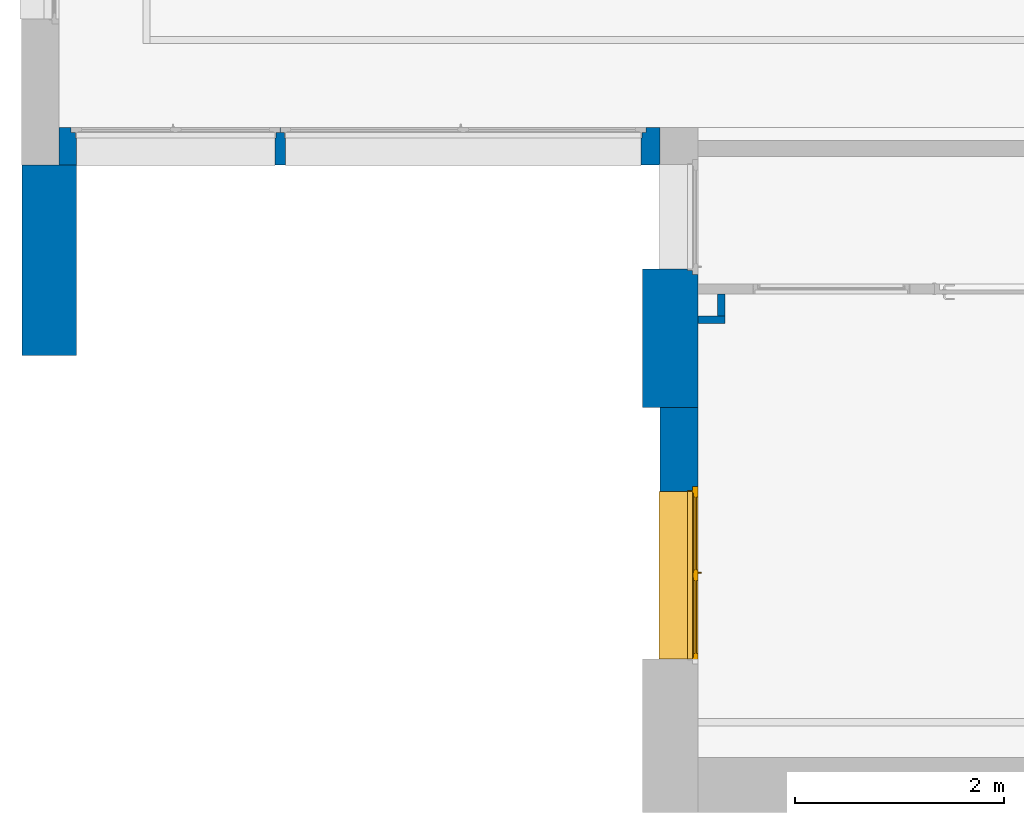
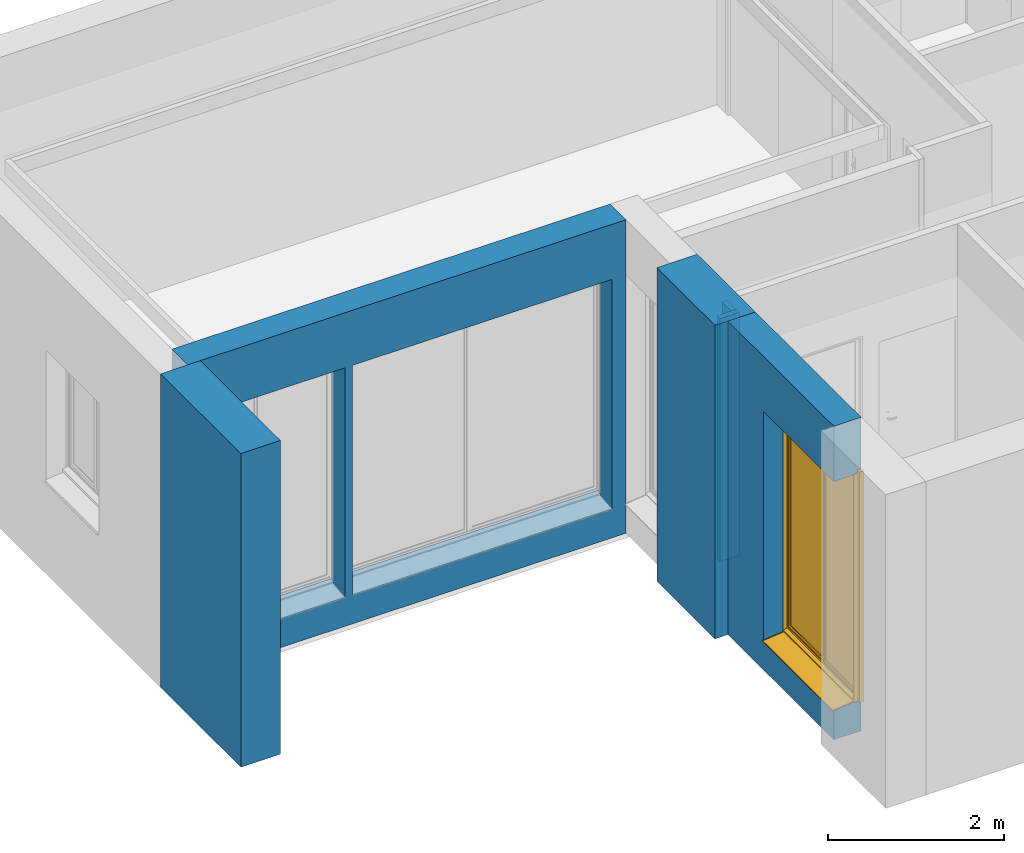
# One storey, part 3 of 32: 6 walls, 1 window, 4 openings.
"""IFC2X3 building model written with IfcOpenShell, lengths in metres."""

import ifcopenshell
import ifcopenshell.guid

model = None  # the IFC model being written
_history = None  # IfcOwnerHistory: only IFC2X3 demands one
_inside = {}  # id of a spatial element -> (the spatial element, [elements in it])
_under = {}  # id of a project, library or spatial element -> (it, [spatial elements below it])
_declared = {}  # id of a project -> (the project, [libraries it declares])
_typed = {}  # id of a type object -> (the type object, [elements of that type])
_made_of = {}  # id of a material, layer set ... -> (it, [elements and type objects made of it])


def new_model(schema):
    """Start an empty IFC model of exactly this schema.

    Asked for "IFC4X3", IfcOpenShell would pick the latest addendum, in which some entities
    have other attributes; the version numbers below select the first issue.
    IFC2X3 requires an IfcOwnerHistory on every rooted entity: one is made here for all.
    """
    global model, _history
    if schema == "IFC4X3":
        model = ifcopenshell.file(schema_version=(4, 3, 0, 0))
    else:
        model = ifcopenshell.file(schema=schema)
    _inside.clear()
    _under.clear()
    _declared.clear()
    _typed.clear()
    _made_of.clear()
    _history = None
    if model.schema == "IFC2X3":
        org = make("IfcOrganization", Name="unknown")
        user = make(
            "IfcPersonAndOrganization",
            ThePerson=make("IfcPerson", FamilyName="unknown"),
            TheOrganization=org,
        )
        app = make(
            "IfcApplication",
            ApplicationDeveloper=org,
            Version="unknown",
            ApplicationFullName="unknown",
            ApplicationIdentifier="unknown",
        )
        _history = make(
            "IfcOwnerHistory",
            OwningUser=user,
            OwningApplication=app,
            ChangeAction="ADDED",
            CreationDate=0,
        )
    return model


def make(cls, **values):
    """One entity of the class cls with the attributes given. An attribute that is None is left unset."""
    return model.create_entity(
        cls, **{name: value for name, value in values.items() if value is not None}
    )


def entity(cls, *values):
    """Any entity or typed value of the class cls, its attributes in the order of the schema. None: left unset."""
    e = model.create_entity(cls)
    for i, value in enumerate(values):
        if value is not None:
            e[i] = value
    return e


def rooted(cls, **values):
    """An entity with a GlobalId (a new one), such as an element, a storey or a relation."""
    return make(cls, GlobalId=ifcopenshell.guid.new(), OwnerHistory=_history, **values)


def si_unit(unit_type, name, prefix=None):
    """IfcSIUnit, for example si_unit("LENGTHUNIT", "METRE", prefix="MILLI")."""
    return make("IfcSIUnit", UnitType=unit_type, Prefix=prefix, Name=name)


def converted_unit(unit_type, name, factor, base, dimensions=None, offset=None):
    """IfcConversionBasedUnit, such as the inch: factor (a typed value) times the base unit."""
    return make(
        "IfcConversionBasedUnit"
        if offset is None
        else "IfcConversionBasedUnitWithOffset",
        ConversionOffset=offset,
        Dimensions=None
        if dimensions is None
        else entity("IfcDimensionalExponents", *dimensions),
        UnitType=unit_type,
        Name=name,
        ConversionFactor=make(
            "IfcMeasureWithUnit", ValueComponent=factor, UnitComponent=base
        ),
    )


def derived_unit(unit_type, elements):
    """IfcDerivedUnit: a product of units, each with its exponent."""
    return make(
        "IfcDerivedUnit",
        Elements=[
            make("IfcDerivedUnitElement", Unit=unit, Exponent=power)
            for unit, power in elements
        ],
        UnitType=unit_type,
    )


def assignment(units):
    """IfcUnitAssignment: the units of a project."""
    return None if units is None else make("IfcUnitAssignment", Units=units)


def point(xyz):
    """IfcCartesianPoint."""
    return None if xyz is None else make("IfcCartesianPoint", Coordinates=xyz)


def direction(xyz):
    """IfcDirection."""
    return None if xyz is None else make("IfcDirection", DirectionRatios=xyz)


def frame(location, z_axis=None, x_axis=None):
    """IfcAxis2Placement3D, a coordinate frame: its origin and axes. An axis left out is left unset."""
    return make(
        "IfcAxis2Placement3D",
        Location=point(location),
        Axis=direction(z_axis),
        RefDirection=direction(x_axis),
    )


def frame_2d(location, x_axis=None):
    """IfcAxis2Placement2D, a coordinate frame in the plane: its origin and x axis."""
    return make(
        "IfcAxis2Placement2D", Location=point(location), RefDirection=direction(x_axis)
    )


def origin():
    """The frame at (0, 0, 0) with its axes left unset."""
    return frame((0.0, 0.0, 0.0))


def origin_2d_with_axis():
    """The frame at (0, 0) in the plane with the x axis (1, 0) written out."""
    return frame_2d((0.0, 0.0), x_axis=(1.0, 0.0))


def place(relative_to, where):
    """IfcLocalPlacement: puts the frame where relative to a parent placement (None: the world)."""
    return make(
        "IfcLocalPlacement", PlacementRelTo=relative_to, RelativePlacement=where
    )


def context(
    kind, dimensions, precision=None, world=None, true_north=None, identifier=None
):
    """IfcGeometricRepresentationContext, for example the 3D "Model" context."""
    return make(
        "IfcGeometricRepresentationContext",
        ContextIdentifier=identifier,
        ContextType=kind,
        CoordinateSpaceDimension=dimensions,
        Precision=precision,
        WorldCoordinateSystem=world,
        TrueNorth=true_north,
    )


def subcontext(parent, identifier, kind, view, scale=None):
    """IfcGeometricRepresentationSubContext, for example "Body" below "Model"."""
    return make(
        "IfcGeometricRepresentationSubContext",
        ContextIdentifier=identifier,
        ContextType=kind,
        ParentContext=parent,
        TargetScale=scale,
        TargetView=view,
    )


def project(units=None, contexts=None):
    """IfcProject with its units and contexts."""
    return rooted(
        "IfcProject",
        Name="project",
        RepresentationContexts=contexts,
        UnitsInContext=assignment(units),
    )


def spatial(cls, under=None, at=None, **own):
    """A site, building, storey or space (cls), placed at a placement, below another one or the project."""
    s = rooted(cls, ObjectPlacement=at, **own)
    if under is not None:
        _under.setdefault(under.id(), (under, []))[1].append(s)
    return s


def polyline(points):
    """IfcPolyline through the points."""
    return make("IfcPolyline", Points=[point(p) for p in points])


def circle_curve(where, radius):
    """IfcCircle in the frame where."""
    return make("IfcCircle", Position=where, Radius=radius)


def parameter(value):
    """IfcParameterValue: where a trimmed curve begins or ends, as a parameter of its basis curve."""
    return model.create_entity("IfcParameterValue", value)


def trimmed(basis, trim1, trim2, sense, master):
    """IfcTrimmedCurve: the piece of a basis curve between two trims."""
    return make(
        "IfcTrimmedCurve",
        BasisCurve=basis,
        Trim1=trim1,
        Trim2=trim2,
        SenseAgreement=sense,
        MasterRepresentation=master,
    )


def segment(curve, same_sense, transition):
    """IfcCompositeCurveSegment."""
    return make(
        "IfcCompositeCurveSegment",
        Transition=transition,
        SameSense=same_sense,
        ParentCurve=curve,
    )


def composite_curve(segments, self_intersect=None):
    """IfcCompositeCurve: segments joined end to end."""
    return make("IfcCompositeCurve", Segments=segments, SelfIntersect=self_intersect)


def profile(cls, at=None, kind="AREA", **sizes):
    """A parametric profile (cls). Its sizes go by their IFC names, for example OverallWidth=200.0."""
    return make(cls, ProfileType=kind, Position=at, **sizes)


def rectangle(**sizes):
    """IfcRectangleProfileDef."""
    return profile("IfcRectangleProfileDef", **sizes)


def outline(outer, holes=None, kind="AREA"):
    """IfcArbitraryClosedProfileDef: a profile drawn as a closed curve; with holes, ...WithVoids."""
    if holes is None:
        return make("IfcArbitraryClosedProfileDef", ProfileType=kind, OuterCurve=outer)
    return make(
        "IfcArbitraryProfileDefWithVoids",
        ProfileType=kind,
        OuterCurve=outer,
        InnerCurves=holes,
    )


def extrude(swept, where, along, depth):
    """IfcExtrudedAreaSolid: the profile swept, set in the frame where, extruded along a direction by depth."""
    return make(
        "IfcExtrudedAreaSolid",
        SweptArea=swept,
        Position=where,
        ExtrudedDirection=direction(along),
        Depth=depth,
    )


def faces_of(points, faces, orient=None, outer=None):
    """IfcFace entities. A face is a list of loops; a loop is a list of indices into points, from 0.

    orient and outer hold one flag for each loop. By default every Orientation is true, the
    first loop of a face is its IfcFaceOuterBound and the others are IfcFaceBound.
    """
    made = []
    for i, loops in enumerate(faces):
        bounds = []
        for j, loop in enumerate(loops):
            is_outer = j == 0 if outer is None else outer[i][j]
            bounds.append(
                make(
                    "IfcFaceOuterBound" if is_outer else "IfcFaceBound",
                    Bound=make("IfcPolyLoop", Polygon=[points[k] for k in loop]),
                    Orientation=True if orient is None else orient[i][j],
                )
            )
        made.append(make("IfcFace", Bounds=bounds))
    return made


def faceted_brep(points, faces, orient=None, outer=None, voids=None):
    """IfcFacetedBrep: a solid bounded by flat faces; with voids (closed shells), ...WithVoids."""
    shared = [point(p) for p in points]
    hull = make("IfcClosedShell", CfsFaces=faces_of(shared, faces, orient, outer))
    if voids is None:
        return make("IfcFacetedBrep", Outer=hull)
    return make(
        "IfcFacetedBrepWithVoids",
        Outer=hull,
        Voids=[
            make(cls, CfsFaces=faces_of(shared, fs, o, b)) for cls, fs, o, b in voids
        ],
    )


def shape(context_of_items, identifier, shape_type, items):
    """IfcShapeRepresentation: the items that make up one representation, for example the "Body"."""
    return make(
        "IfcShapeRepresentation",
        ContextOfItems=context_of_items,
        RepresentationIdentifier=identifier,
        RepresentationType=shape_type,
        Items=items,
    )


def source(mapping_origin, context_of_items, identifier, shape_type, items):
    """IfcRepresentationMap: a shape defined once, which mapped items show again and again."""
    return make(
        "IfcRepresentationMap",
        MappingOrigin=mapping_origin,
        MappedRepresentation=shape(context_of_items, identifier, shape_type, items),
    )


def transform(
    local_origin,
    x_axis=None,
    y_axis=None,
    z_axis=None,
    scale=None,
    scale2=None,
    scale3=None,
    uniform=True,
):
    """IfcCartesianTransformationOperator3D, or its non-uniform kind. x_axis, y_axis, z_axis: its Axis1, 2, 3."""
    if uniform:
        return make(
            "IfcCartesianTransformationOperator3D",
            Axis1=direction(x_axis),
            Axis2=direction(y_axis),
            LocalOrigin=point(local_origin),
            Scale=scale,
            Axis3=direction(z_axis),
        )
    return make(
        "IfcCartesianTransformationOperator3DnonUniform",
        Axis1=direction(x_axis),
        Axis2=direction(y_axis),
        LocalOrigin=point(local_origin),
        Scale=scale,
        Axis3=direction(z_axis),
        Scale2=scale2,
        Scale3=scale3,
    )


def mapped(mapping_source, mapping_target):
    """IfcMappedItem: shows the shape of a source again, moved by a transform."""
    return make(
        "IfcMappedItem", MappingSource=mapping_source, MappingTarget=mapping_target
    )


def material(Name=None, Category=None):
    """IfcMaterial."""
    return make("IfcMaterial", Name=Name, Category=Category)


def material_list(materials):
    """IfcMaterialList."""
    return make("IfcMaterialList", Materials=materials)


def layer(
    of_material, thickness, ventilated=None, Name=None, Category=None, Priority=None
):
    """IfcMaterialLayer: one layer of a wall or slab, of a material (None: an air gap)."""
    return make(
        "IfcMaterialLayer",
        Material=of_material,
        LayerThickness=thickness,
        IsVentilated=ventilated,
        Name=Name,
        Category=Category,
        Priority=Priority,
    )


def layer_set(layers, Name=None):
    """IfcMaterialLayerSet."""
    return make("IfcMaterialLayerSet", MaterialLayers=layers, LayerSetName=Name)


def layer_usage(for_layer_set, set_direction, sense, offset, extent=None):
    """IfcMaterialLayerSetUsage: how a layer set lies in its element."""
    return make(
        "IfcMaterialLayerSetUsage",
        ForLayerSet=for_layer_set,
        LayerSetDirection=set_direction,
        DirectionSense=sense,
        OffsetFromReferenceLine=offset,
        ReferenceExtent=extent,
    )


def made_of(thing, what):
    """Note that an element or type object is made of a material, layer set ...; save() writes the relation."""
    if what is not None:
        _made_of.setdefault(what.id(), (what, []))[1].append(thing)
    return thing


def type_object(cls, material=None, **own):
    """A type object (cls), such as IfcWallType, which elements share."""
    return made_of(rooted(cls, **own), material)


def type_shapes(of_type, sources):
    """Give a type object the sources (RepresentationMaps) that its elements show as mapped items."""
    of_type.RepresentationMaps = sources


def element(
    cls,
    number,
    at=None,
    inside=None,
    cuts=None,
    type_object=None,
    material=None,
    context=None,
    identifier="Body",
    shape_type=None,
    held_by="IfcProductDefinitionShape",
    body=None,
    shapes=None,
    **own,
):
    """One element of the class cls, such as IfcWall. Its Tag is "e" and its number.

    at: its placement. inside: the storey or other place that contains it. cuts: it is an
    opening in that element (IfcRelVoidsElement). A single representation is given by context,
    identifier, shape_type and body (its items); several are given by shapes. held_by: the class
    of the entity that holds the representations. save() writes the other relations.
    """
    e = rooted(cls, Tag="e%d" % number, ObjectPlacement=at, **own)
    if body is not None:
        shapes = [shape(context, identifier, shape_type, body)]
    if shapes is not None:
        e.Representation = make(held_by, Representations=shapes)
    if inside is not None:
        _inside.setdefault(inside.id(), (inside, []))[1].append(e)
    if cuts is not None:
        rooted(
            "IfcRelVoidsElement", RelatingBuildingElement=cuts, RelatedOpeningElement=e
        )
    if type_object is not None:
        _typed.setdefault(type_object.id(), (type_object, []))[1].append(e)
    return made_of(e, material)


def fill(opening, filler):
    """IfcRelFillsElement: the door or window that sits in an opening."""
    return rooted(
        "IfcRelFillsElement",
        RelatingOpeningElement=opening,
        RelatedBuildingElement=filler,
    )


def aggregate(whole, parts):
    """IfcRelAggregates: a whole, such as a stair, and the parts it consists of."""
    return rooted("IfcRelAggregates", RelatingObject=whole, RelatedObjects=parts)


def save(model, path):
    """Write the relations noted so far, then the file.

    IfcRelAggregates (storeys below a building ...), IfcRelContainedInSpatialStructure (elements
    in a storey), IfcRelDefinesByType, IfcRelAssociatesMaterial and IfcRelDeclares: one each for
    every whole, place, type object, material and project.
    """
    for whole, parts in _under.values():
        aggregate(whole, parts)
    for where, things in _inside.values():
        rooted(
            "IfcRelContainedInSpatialStructure",
            RelatedElements=things,
            RelatingStructure=where,
        )
    for kind, things in _typed.values():
        rooted("IfcRelDefinesByType", RelatedObjects=things, RelatingType=kind)
    for what, things in _made_of.values():
        rooted("IfcRelAssociatesMaterial", RelatedObjects=things, RelatingMaterial=what)
    for by, libraries in _declared.values():
        rooted("IfcRelDeclares", RelatingContext=by, RelatedDefinitions=libraries)
    model.write(path)


model = new_model("IFC2X3")

# Units and contexts
model_context = context("Model", 3, precision=1e-05, world=origin(), true_north=direction((6.12303176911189e-17, 1.0)))
plan_context = context("Plan", 3, precision=1e-05, world=origin(), true_north=direction((6.12303176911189e-17, 1.0)))
body_context = subcontext(model_context, "Body", "Model", "MODEL_VIEW")
ifc_project = project(units=[si_unit("LENGTHUNIT", "METRE"), si_unit("AREAUNIT", "SQUARE_METRE"), si_unit("VOLUMEUNIT", "CUBIC_METRE"), converted_unit("PLANEANGLEUNIT", "DEGREE", entity("IfcRatioMeasure", 0.0174532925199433), si_unit("PLANEANGLEUNIT", "RADIAN"), dimensions=[0, 0, 0, 0, 0, 0, 0]), si_unit("MASSUNIT", "GRAM", prefix="KILO"), derived_unit("MASSDENSITYUNIT", [(si_unit("MASSUNIT", "GRAM", prefix="KILO"), 1), (si_unit("LENGTHUNIT", "METRE"), -3)]), derived_unit("MOMENTOFINERTIAUNIT", [(si_unit("LENGTHUNIT", "METRE"), 4)]), si_unit("TIMEUNIT", "SECOND"), si_unit("FREQUENCYUNIT", "HERTZ"), si_unit("THERMODYNAMICTEMPERATUREUNIT", "DEGREE_CELSIUS"), derived_unit("THERMALTRANSMITTANCEUNIT", [(si_unit("MASSUNIT", "GRAM", prefix="KILO"), 1), (si_unit("THERMODYNAMICTEMPERATUREUNIT", "KELVIN"), -1), (si_unit("TIMEUNIT", "SECOND"), -3)]), derived_unit("VOLUMETRICFLOWRATEUNIT", [(si_unit("LENGTHUNIT", "METRE"), 3), (si_unit("TIMEUNIT", "SECOND"), -1)]), si_unit("ELECTRICCURRENTUNIT", "AMPERE"), si_unit("ELECTRICVOLTAGEUNIT", "VOLT"), si_unit("POWERUNIT", "WATT"), si_unit("FORCEUNIT", "NEWTON", prefix="KILO"), si_unit("ILLUMINANCEUNIT", "LUX"), si_unit("LUMINOUSFLUXUNIT", "LUMEN"), si_unit("LUMINOUSINTENSITYUNIT", "CANDELA"), derived_unit("USERDEFINED", [(si_unit("MASSUNIT", "GRAM", prefix="KILO"), -1), (si_unit("LENGTHUNIT", "METRE"), -2), (si_unit("TIMEUNIT", "SECOND"), 3), (si_unit("LUMINOUSFLUXUNIT", "LUMEN"), 1)]), derived_unit("LINEARVELOCITYUNIT", [(si_unit("LENGTHUNIT", "METRE"), 1), (si_unit("TIMEUNIT", "SECOND"), -1)]), si_unit("PRESSUREUNIT", "PASCAL"), derived_unit("USERDEFINED", [(si_unit("LENGTHUNIT", "METRE"), -2), (si_unit("MASSUNIT", "GRAM", prefix="KILO"), 1), (si_unit("TIMEUNIT", "SECOND"), -2)]), derived_unit("LINEARFORCEUNIT", [(si_unit("MASSUNIT", "GRAM", prefix="KILO"), 1), (si_unit("LENGTHUNIT", "METRE"), 1), (si_unit("TIMEUNIT", "SECOND"), -2), (si_unit("LENGTHUNIT", "METRE"), -1)]), derived_unit("PLANARFORCEUNIT", [(si_unit("MASSUNIT", "GRAM", prefix="KILO"), 1), (si_unit("LENGTHUNIT", "METRE"), 1), (si_unit("TIMEUNIT", "SECOND"), -2), (si_unit("LENGTHUNIT", "METRE"), -2)])], contexts=[model_context, plan_context])

# Site, building, storey
site_placement = place(None, origin())
site = spatial("IfcSite", under=ifc_project, at=site_placement, Name="Default", CompositionType="ELEMENT")
building_placement = place(site_placement, origin())
building = spatial("IfcBuilding", under=site, at=building_placement, CompositionType="ELEMENT")
storey_placement = place(building_placement, origin())
storey = spatial("IfcBuildingStorey", under=building, at=storey_placement, Name="0 Mairie RDC 0.00", CompositionType="ELEMENT", Elevation=-1.94916083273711e-14)

# Walls
ifc_material_1 = material(Name="Plâtre")
ifc_layer_1 = layer(ifc_material_1, 0.01)
ifc_material_2 = material(Name="Maçonnerie - Isolant")
ifc_layer_2 = layer(ifc_material_2, 0.05)
ifc_layer_3 = layer(ifc_material_1, 0.01)
ifc_layer_set_1 = layer_set([ifc_layer_1, ifc_layer_2, ifc_layer_3], Name="Mur de base:A cloison placostil 72 sèche")
ifc_layer_usage_1 = layer_usage(ifc_layer_set_1, "AXIS2", "POSITIVE", -0.035)
wall_type_1 = type_object("IfcWallType", Name="Murs : Mur de base : A cloison placostil 72 sèche", PredefinedType="STANDARD", material=ifc_layer_set_1)
wall_1_placement = place(storey_placement, frame((-23.7782803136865, -9.79427881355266, 0.0)))
element("IfcWallStandardCase", 1, at=wall_1_placement, inside=storey, type_object=wall_type_1, material=ifc_layer_usage_1, Name="Murs : Mur de base : A cloison placostil 72 sèche", ObjectType="Mur de base:A cloison placostil 72 sèche", context=body_context, shape_type="SweptSolid", body=[
    extrude(rectangle(XDim=0.257647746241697, YDim=0.0700000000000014, at=frame_2d((0.128823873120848, 0.0), x_axis=(-1.0, 0.0))), origin(), (0.0, 0.0, 1.0), 3.37),
])
ifc_layer_usage_2 = layer_usage(ifc_layer_set_1, "AXIS2", "POSITIVE", -0.035)
wall_2_placement = place(storey_placement, frame((-23.5556325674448, -9.75927881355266, 0.0), z_axis=(0.0, 0.0, 1.0), x_axis=(0.0, 1.0, 0.0)))
element("IfcWallStandardCase", 2, at=wall_2_placement, inside=storey, type_object=wall_type_1, material=ifc_layer_usage_2, Name="Murs : Mur de base : A cloison placostil 72 sèche", ObjectType="Mur de base:A cloison placostil 72 sèche", context=body_context, shape_type="SweptSolid", body=[
    extrude(rectangle(XDim=0.210201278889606, YDim=0.0700000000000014, at=frame_2d((0.105100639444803, 0.0), x_axis=(-1.0, 0.0))), origin(), (0.0, 0.0, 1.0), 3.37),
])

# Wall, opening, window
ifc_material_3 = material(Name="Maçonnerie - Enduit")
ifc_layer_4 = layer(ifc_material_3, 0.02)
ifc_material_4 = material(Name="Béton, coulé sur place")
ifc_layer_5 = layer(ifc_material_4, 0.2)
ifc_material_5 = material(Name="Vide")
ifc_layer_6 = layer(ifc_material_5, 0.01)
ifc_layer_7 = layer(ifc_material_2, 0.12)
ifc_layer_8 = layer(ifc_material_1, 0.01)
ifc_layer_set_2 = layer_set([ifc_layer_4, ifc_layer_5, ifc_layer_6, ifc_layer_7, ifc_layer_8], Name="Mur de base:A Enduit 2 + Béton 20 + vide 1 +  Doublage 13")
ifc_layer_usage_3 = layer_usage(ifc_layer_set_2, "AXIS2", "POSITIVE", -0.18)
wall_type_2 = type_object("IfcWallType", Name="Murs : Mur de base : A Enduit 2 + Béton 20 + vide 1 +  Doublage 13", PredefinedType="STANDARD", material=ifc_layer_set_2)
wall_3_placement = place(storey_placement, frame((-23.9582803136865, -10.6305073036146, -0.400000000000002), z_axis=(0.0, 0.0, 1.0), x_axis=(0.0, -1.0, 0.0)))
wall_3 = element("IfcWallStandardCase", 3, at=wall_3_placement, inside=storey, type_object=wall_type_2, material=ifc_layer_usage_3, Name="Murs : Mur de base : A Enduit 2 + Béton 20 + vide 1 +  Doublage 13", ObjectType="Mur de base:A Enduit 2 + Béton 20 + vide 1 +  Doublage 13", context=body_context, shape_type="SweptSolid", body=[
    extrude(rectangle(XDim=2.40645519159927, YDim=0.359999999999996, at=frame_2d((1.20322759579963, -1.13797860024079e-15), x_axis=(-1.0, 0.0))), origin(), (0.0, 0.0, 1.0), 4.35000000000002),
])
opening_1_placement = place(wall_3_placement, frame((2.45645519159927, -0.500000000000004, 0.400000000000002), z_axis=(0.0, 0.0, 1.0), x_axis=(0.0, 1.0, 0.0)))
opening_1 = element("IfcOpeningElement", 4, at=opening_1_placement, cuts=wall_3, Name="Murs : Mur de base : A Enduit 2 + Béton 20 + vide 1 +  Doublage 13", ObjectType="Opening", context=body_context, shape_type="Brep", body=[
    faceted_brep([(0.599999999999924, 0.0499999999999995, 0.035), (0.580000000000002, 0.0499999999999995, 0.035), (0.580000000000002, 0.0499999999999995, 3.185), (0.0, 0.0500000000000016, 3.185), (0.0, 0.0500000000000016, 0.0), (0.266997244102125, 0.0500000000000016, 0.0), (1.0, 1.65, 0.0350000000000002), (0.680000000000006, 1.65, 0.0350000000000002), (0.680000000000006, 1.65, 3.185), (1.0, 1.65, 3.185), (1.0, 0.0499999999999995, 0.0350000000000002), (0.680000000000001, 0.0499999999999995, 0.0350000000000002), (0.680000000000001, 0.0, 0.0350000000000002), (0.630000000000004, 0.0, 0.0350000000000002), (0.630000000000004, 0.0399999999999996, 0.0350000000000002), (0.579999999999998, 0.0399999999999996, 0.0350000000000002), (0.599999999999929, 1.65, 0.0349999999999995), (0.580000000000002, 1.65, 0.0350000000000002), (0.580000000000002, 1.66, 0.0350000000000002), (0.630000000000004, 1.66, 0.0350000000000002), (0.630000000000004, 1.7, 0.0350000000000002), (0.680000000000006, 1.7, 0.0350000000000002), (1.0, 0.0499999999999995, 3.185), (0.580000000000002, 1.65, 3.185), (0.0, 1.65, 3.185), (0.0, 1.65, 0.0), (0.266997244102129, 1.65, 0.0), (0.680000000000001, 0.0, 3.235), (0.630000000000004, 0.0, 3.235), (0.630000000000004, 1.7, 3.235), (0.630000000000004, 1.66, 3.195), (0.630000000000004, 0.0399999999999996, 3.195), (0.580000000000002, 0.0399999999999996, 3.195), (0.580000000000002, 1.66, 3.195), (0.680000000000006, 0.0499999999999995, 3.185), (0.680000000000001, 1.7, 3.235)], [[[0, 1, 2, 3, 4, 5]], [[6, 7, 8, 9]], [[10, 11, 12, 13, 14, 15, 1, 0, 16, 17, 18, 19, 20, 21, 7, 6]], [[10, 6, 9, 22]], [[3, 2, 23, 24]], [[3, 24, 25, 4]], [[4, 25, 26, 5]], [[5, 26, 16, 0]], [[12, 27, 28, 13]], [[13, 28, 29, 20, 19, 30, 31, 14]], [[14, 31, 32, 15]], [[15, 32, 33, 18, 17, 23, 2, 1]], [[11, 34, 8, 7, 21, 35, 27, 12]], [[27, 35, 29, 28]], [[30, 33, 32, 31]], [[29, 35, 21, 20]], [[19, 18, 33, 30]], [[9, 8, 34, 22]], [[24, 23, 17, 16, 26, 25]], [[22, 34, 11, 10]]]),
])
ifc_material_6 = material(Name="PVC Blanc")
ifc_material_7 = material(Name="Fenêtre - Vitrage")
ifc_material_list = material_list([ifc_material_7, ifc_material_6])
window_style = type_object("IfcWindowStyle", Name="Fenêtres : PF 2 Vantaux - Droits : 1.60 x 3.15", ConstructionType="NOTDEFINED", OperationType="DOUBLE_PANEL_VERTICAL", ParameterTakesPrecedence=False, Sizeable=False, material=ifc_material_list)
shared_shape = source(origin(), body_context, "Body", "SolidModel", [
    extrude(outline(polyline([(-0.0233345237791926, -0.0332340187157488), (-0.0162634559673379, -0.0332340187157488), (0.0332340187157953, 0.0162634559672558), (0.0332340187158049, 0.0233345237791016), (0.0233345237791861, 0.0332340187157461), (0.0162634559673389, 0.0332340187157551), (-0.0332340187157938, -0.0162634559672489), (-0.0332340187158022, -0.0233345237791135), (-0.0233345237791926, -0.0332340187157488)])), frame((0.875000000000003, 0.314000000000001, 1.1), z_axis=(0.0, 1.0, 0.0), x_axis=(0.707106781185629, 0.0, -0.707106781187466)), (0.0, 0.0, 1.0), 0.00599999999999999),
    extrude(outline(polyline([(-0.145647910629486, 0.00157280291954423), (-0.14680589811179, -0.00944471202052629), (-0.141778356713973, -0.0094447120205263), (-0.141169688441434, -0.003653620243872), (0.145429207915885, -0.00365362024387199), (0.146997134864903, 0.0112642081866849), (0.142024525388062, 0.0117868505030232), (0.140950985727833, 0.00157280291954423), (-0.145647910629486, 0.00157280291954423)])), frame((0.05, 0.545014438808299, 0.0234321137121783), z_axis=(-1.0, 0.0, 0.0), x_axis=(0.0, -0.994521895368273, 0.104528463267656)), (0.0, 0.0, -1.0), 1.6),
    extrude(outline(composite_curve([segment(polyline([(-0.014354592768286, -0.11472792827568), (-0.0129286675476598, -0.11472792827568)]), True, "CONTINUOUS"), segment(trimmed(circle_curve(frame_2d((-0.0129286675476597, -0.11072792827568), x_axis=(0.0, 1.0)), 0.004), [parameter(180.0)], [parameter(264.0)], True, "PARAMETER"), True, "CONTINUOUS"), segment(polyline([(-0.00895057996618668, -0.111146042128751), (0.0206306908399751, 0.170300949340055)]), True, "CONTINUOUS"), segment(polyline([(0.0206306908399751, 0.170300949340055), (0.0156031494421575, 0.170300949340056)]), True, "CONTINUOUS"), segment(polyline([(0.0156031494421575, 0.170300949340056), (-0.014354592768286, -0.11472792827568)]), True, "CONTINUOUS")], self_intersect=False)), frame((0.0499999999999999, 0.575300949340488, 0.0241265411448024), z_axis=(1.0, 0.0, 0.0), x_axis=(0.0, 0.0, 1.0)), (0.0, 0.0, 1.0), 0.00499999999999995),
    extrude(outline(composite_curve([segment(polyline([(-0.0143545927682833, -0.11472792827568), (-0.0129286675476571, -0.11472792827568)]), True, "CONTINUOUS"), segment(trimmed(circle_curve(frame_2d((-0.0129286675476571, -0.11072792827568), x_axis=(0.0, 1.0)), 0.004), [parameter(180.0)], [parameter(264.0)], True, "PARAMETER"), True, "CONTINUOUS"), segment(polyline([(-0.00895057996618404, -0.111146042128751), (0.020630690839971, 0.170300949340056)]), True, "CONTINUOUS"), segment(polyline([(0.020630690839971, 0.170300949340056), (0.0156031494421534, 0.170300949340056)]), True, "CONTINUOUS"), segment(polyline([(0.0156031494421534, 0.170300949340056), (-0.0143545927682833, -0.11472792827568)]), True, "CONTINUOUS")], self_intersect=False)), frame((1.645, 0.575300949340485, 0.0241265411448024), z_axis=(1.0, 0.0, 0.0), x_axis=(0.0, 0.0, 1.0)), (0.0, 0.0, 1.0), 0.00499999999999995),
    extrude(outline(polyline([(-0.400000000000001, -1.55), (0.400000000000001, -1.55), (0.400000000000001, 1.55), (-0.400000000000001, 1.55), (-0.400000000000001, -1.55)]), holes=[polyline([(0.350000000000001, -1.5), (-0.350000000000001, -1.5), (-0.350000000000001, 1.5), (0.350000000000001, 1.5), (0.350000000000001, -1.5)])]), frame((0.449999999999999, 0.320000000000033, 1.635), z_axis=(0.0, 1.0, 0.0), x_axis=(-1.0, 0.0, 0.0)), (0.0, 0.0, 1.0), 0.0399999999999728),
    extrude(rectangle(XDim=0.012, YDim=0.700000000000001, at=origin_2d_with_axis()), frame((1.25, 0.339999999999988, 0.135), z_axis=(0.0, 0.0, 1.0), x_axis=(0.0, -1.0, 0.0)), (0.0, 0.0, 1.0), 3.0),
    extrude(rectangle(XDim=0.012, YDim=0.700000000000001, at=origin_2d_with_axis()), frame((0.449999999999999, 0.339999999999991, 0.135), z_axis=(0.0, 0.0, 1.0), x_axis=(0.0, -1.0, 0.0)), (0.0, 0.0, 1.0), 3.0),
    extrude(outline(polyline([(-0.399999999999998, -1.55), (0.400000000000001, -1.55), (0.399999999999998, 1.55), (-0.400000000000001, 1.55), (-0.399999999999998, -1.55)]), holes=[polyline([(0.350000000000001, -1.5), (-0.349999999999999, -1.5), (-0.350000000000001, 1.5), (0.349999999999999, 1.5), (0.350000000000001, -1.5)])]), frame((1.25, 0.319999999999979, 1.635), z_axis=(0.0, 1.0, 0.0), x_axis=(-1.0, 0.0, 0.0)), (0.0, 0.0, 1.0), 0.0399999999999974),
    extrude(outline(polyline([(-1.5775, -0.81), (1.5825, -0.81), (1.5825, 0.81), (-1.5775, 0.810000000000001), (-1.5775, 0.8), (1.5725, 0.8), (1.5725, -0.8), (-1.5775, -0.8), (-1.5775, -0.81)])), frame((0.85, 0.37, 1.6125), z_axis=(0.0, 1.0, 0.0), x_axis=(0.0, 0.0, 1.0)), (0.0, 0.0, 1.0), 0.0500000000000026),
    extrude(rectangle(XDim=0.0400000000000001, YDim=0.00799999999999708, at=frame_2d((0.0, 8.23993651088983e-18), x_axis=(1.0, 0.0))), frame((0.85, 0.363999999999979, 0.0999999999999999), z_axis=(0.0, 0.0, 1.0), x_axis=(-1.0, 0.0, 0.0)), (0.0, 0.0, 1.0), 3.07),
    faceted_brep([(0.880646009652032, 0.313999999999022, 1.12203392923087), (0.882033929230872, 0.313999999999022, 1.12064600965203), (0.882033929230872, 0.313999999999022, 1.10933230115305), (0.880667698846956, 0.313999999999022, 1.10796607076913), (0.869332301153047, 0.313999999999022, 1.10796607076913), (0.867966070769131, 0.313999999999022, 1.10933230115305), (0.867966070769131, 0.313999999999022, 1.12064600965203), (0.869353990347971, 0.313999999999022, 1.12203392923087), (0.880646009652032, 0.301086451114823, 1.12203392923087), (0.882033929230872, 0.301661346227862, 1.12064600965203), (0.882033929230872, 0.288353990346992, 1.10733865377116), (0.882033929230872, 0.288353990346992, 1.02), (0.882033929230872, 0.299667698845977, 1.02), (0.882033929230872, 0.299667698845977, 1.10265236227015), (0.882033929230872, 0.306347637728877, 1.10933230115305), (0.880667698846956, 0.306913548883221, 1.10796607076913), (0.869332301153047, 0.306913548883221, 1.10796607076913), (0.867966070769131, 0.306347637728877, 1.10933230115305), (0.867966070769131, 0.299667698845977, 1.10265236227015), (0.867966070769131, 0.299667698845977, 1.02), (0.867966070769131, 0.288353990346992, 1.02), (0.867966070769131, 0.288353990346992, 1.10733865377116), (0.867966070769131, 0.301661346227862, 1.12064600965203), (0.869353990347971, 0.301086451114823, 1.12203392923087), (0.880646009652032, 0.286966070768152, 1.1079135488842), (0.880667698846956, 0.301033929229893, 1.1020864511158), (0.869332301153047, 0.301033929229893, 1.1020864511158), (0.869353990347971, 0.286966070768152, 1.1079135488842), (0.880646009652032, 0.286966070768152, 1.02), (0.869353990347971, 0.286966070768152, 1.02), (0.869332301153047, 0.301033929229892, 1.02), (0.880667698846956, 0.301033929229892, 1.02)], [[[0, 1, 2, 3, 4, 5, 6, 7]], [[1, 0, 8, 9]], [[2, 1, 9, 10, 11, 12, 13, 14]], [[3, 2, 14, 15]], [[4, 3, 15, 16]], [[5, 4, 16, 17]], [[6, 5, 17, 18, 19, 20, 21, 22]], [[7, 6, 22, 23]], [[0, 7, 23, 8]], [[9, 8, 24, 10]], [[15, 14, 13, 25]], [[16, 15, 25, 26]], [[17, 16, 26, 18]], [[23, 22, 21, 27]], [[8, 23, 27, 24]], [[28, 29, 20, 19, 30, 31, 12, 11]], [[10, 24, 28, 11]], [[25, 13, 12, 31]], [[26, 25, 31, 30]], [[18, 26, 30, 19]], [[27, 21, 20, 29]], [[24, 27, 29, 28]]]),
    faceted_brep([(0.0, 0.320000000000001, 0.0350000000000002), (0.0, 0.370000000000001, 0.0350000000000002), (0.0499999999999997, 0.370000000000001, 0.0350000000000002), (0.0499999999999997, 0.399999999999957, 0.0350000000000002), (1.65, 0.399999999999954, 0.0350000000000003), (1.65, 0.370000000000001, 0.0350000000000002), (1.7, 0.370000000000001, 0.0350000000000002), (1.7, 0.320000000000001, 0.0350000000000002), (0.0, 0.320000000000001, 3.235), (0.0, 0.370000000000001, 3.235), (1.7, 0.370000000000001, 3.235), (1.65, 0.370000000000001, 0.0743761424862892), (0.0499999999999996, 0.370000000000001, 0.0743761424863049), (0.0649999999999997, 0.370000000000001, 3.17), (0.0649999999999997, 0.370000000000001, 0.0999999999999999), (1.635, 0.370000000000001, 0.1), (1.635, 0.370000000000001, 3.17), (0.0499999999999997, 0.419999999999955, 0.060978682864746), (0.0499999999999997, 0.419999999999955, 0.0450000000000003), (0.0499999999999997, 0.40999999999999, 0.0450000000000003), (0.0499999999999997, 0.40999999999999, 0.050000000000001), (0.0499999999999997, 0.399999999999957, 0.050000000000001), (1.65, 0.399999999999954, 0.050000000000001), (1.65, 0.409999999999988, 0.050000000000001), (1.65, 0.409999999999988, 0.0450000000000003), (1.65, 0.419999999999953, 0.0450000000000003), (1.65, 0.419999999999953, 0.060978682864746), (1.7, 0.320000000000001, 3.235), (1.65, 0.320000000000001, 3.185), (1.65, 0.32, 0.0850000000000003), (0.0499999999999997, 0.320000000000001, 0.0850000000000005), (0.0499999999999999, 0.320000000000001, 3.185), (0.0649999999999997, 0.360000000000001, 3.17), (0.0649999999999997, 0.360000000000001, 0.0999999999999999), (1.635, 0.360000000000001, 0.1), (1.635, 0.360000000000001, 3.17), (1.65, 0.360000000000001, 3.185), (0.0499999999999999, 0.360000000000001, 3.185), (0.0499999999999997, 0.360000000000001, 0.0850000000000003), (1.65, 0.360000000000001, 0.0850000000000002)], [[[0, 1, 2, 3, 4, 5, 6, 7]], [[1, 0, 8, 9]], [[1, 9, 10, 6, 5, 11, 12, 2], [13, 14, 15, 16]], [[12, 17, 18, 19, 20, 21, 3, 2]], [[3, 21, 22, 4]], [[4, 22, 23, 24, 25, 26, 11, 5]], [[6, 10, 27, 7]], [[0, 7, 27, 8], [28, 29, 30, 31]], [[13, 32, 33, 14]], [[33, 34, 15, 14]], [[35, 16, 15, 34]], [[17, 12, 11, 26]], [[36, 37, 38, 39], [32, 35, 34, 33]], [[38, 37, 31, 30]], [[30, 29, 39, 38]], [[28, 36, 39, 29]], [[18, 17, 26, 25]], [[19, 18, 25, 24]], [[20, 19, 24, 23]], [[21, 20, 23, 22]], [[13, 16, 35, 32]], [[37, 36, 28, 31]], [[10, 9, 8, 27]]]),
])
type_shapes(window_style, [shared_shape])
window_placement = place(opening_1_placement, frame((1.0, 0.0, 0.0), z_axis=(0.0, 0.0, 1.0), x_axis=(0.0, 1.0, 0.0)))
window = element("IfcWindow", 5, at=window_placement, inside=storey, type_object=window_style, material=ifc_material_6, Name="Fenêtres : PF 2 Vantaux - Droits : 1.60 x 3.15", ObjectType="PF 2 Vantaux - Droits:1.60 x 3.15", OverallHeight=3.265, OverallWidth=1.7, context=body_context, shape_type="MappedRepresentation", body=[
    mapped(shared_shape, transform((0.0, 0.0, 0.0), scale=1.0)),
])
fill(opening_1, window)

# Wall, openings
ifc_layer_usage_4 = layer_usage(ifc_layer_set_2, "AXIS2", "POSITIVE", -0.18)
wall_4_placement = place(storey_placement, frame((-29.8870149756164, -8.13302112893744, -0.400000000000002)))
wall_4 = element("IfcWallStandardCase", 6, at=wall_4_placement, inside=storey, type_object=wall_type_2, material=ifc_layer_usage_4, Name="Murs : Mur de base : A Enduit 2 + Béton 20 + vide 1 +  Doublage 13", ObjectType="Mur de base:A Enduit 2 + Béton 20 + vide 1 +  Doublage 13", context=body_context, shape_type="SweptSolid", body=[
    extrude(rectangle(XDim=5.74873466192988, YDim=0.36, at=frame_2d((2.87436733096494, -4.44089209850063e-16), x_axis=(-1.0, 0.0))), origin(), (0.0, 0.0, 1.0), 4.35000000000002),
])
opening_2_placement = place(wall_4_placement, frame((0.113531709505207, -0.500000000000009, 0.400000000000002)))
element("IfcOpeningElement", 7, at=opening_2_placement, cuts=wall_4, Name="Murs : Mur de base : A Enduit 2 + Béton 20 + vide 1 +  Doublage 13", ObjectType="Opening", context=body_context, shape_type="Brep", body=[
    faceted_brep([(1.95, 0.599999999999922, 0.035), (1.95, 0.579999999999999, 0.035), (1.95, 0.579999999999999, 3.185), (1.95, 0.0, 3.185), (1.95, 0.0, 0.0), (1.95, 0.266997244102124, 0.0), (0.0500000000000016, 1.0, 0.0350000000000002), (0.0500000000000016, 0.680000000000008, 0.0350000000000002), (0.0500000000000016, 0.680000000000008, 3.185), (0.0500000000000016, 1.0, 3.185), (1.95, 1.0, 0.0350000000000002), (1.95, 0.680000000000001, 0.0350000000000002), (2.0, 0.680000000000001, 0.0350000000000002), (2.0, 0.630000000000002, 0.0350000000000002), (1.96, 0.630000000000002, 0.0350000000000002), (1.96, 0.579999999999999, 0.0350000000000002), (0.0499999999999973, 0.599999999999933, 0.035), (0.0500000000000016, 0.580000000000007, 0.0350000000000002), (0.0400000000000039, 0.580000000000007, 0.0350000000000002), (0.0400000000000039, 0.630000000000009, 0.0350000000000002), (0.0, 0.630000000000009, 0.0350000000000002), (0.0, 0.680000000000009, 0.0350000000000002), (1.95, 1.0, 3.185), (0.0499999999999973, 0.580000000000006, 3.185), (0.0500000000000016, 0.0, 3.185), (0.0500000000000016, 0.0, 0.0), (0.0500000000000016, 0.266997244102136, 0.0), (2.0, 0.680000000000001, 3.235), (2.0, 0.630000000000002, 3.235), (0.0, 0.630000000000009, 3.235), (0.0399999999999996, 0.630000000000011, 3.195), (1.96, 0.630000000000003, 3.195), (1.96, 0.579999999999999, 3.195), (0.0399999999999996, 0.580000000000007, 3.195), (1.95, 0.680000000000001, 3.185), (0.0, 0.680000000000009, 3.235)], [[[0, 1, 2, 3, 4, 5]], [[6, 7, 8, 9]], [[10, 11, 12, 13, 14, 15, 1, 0, 16, 17, 18, 19, 20, 21, 7, 6]], [[10, 6, 9, 22]], [[3, 2, 23, 24]], [[3, 24, 25, 4]], [[4, 25, 26, 5]], [[5, 26, 16, 0]], [[12, 27, 28, 13]], [[13, 28, 29, 20, 19, 30, 31, 14]], [[14, 31, 32, 15]], [[15, 32, 33, 18, 17, 23, 2, 1]], [[11, 34, 8, 7, 21, 35, 27, 12]], [[27, 35, 29, 28]], [[30, 33, 32, 31]], [[29, 35, 21, 20]], [[19, 18, 33, 30]], [[9, 8, 34, 22]], [[24, 23, 17, 16, 26, 25]], [[22, 34, 11, 10]]]),
])
opening_3_placement = place(wall_4_placement, frame((2.11440790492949, -0.500000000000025, 0.400000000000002)))
element("IfcOpeningElement", 8, at=opening_3_placement, cuts=wall_4, Name="Murs : Mur de base : A Enduit 2 + Béton 20 + vide 1 +  Doublage 13", ObjectType="Opening", context=body_context, shape_type="Brep", body=[
    faceted_brep([(3.45, 0.599999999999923, 0.035), (3.45, 0.580000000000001, 0.035), (3.45, 0.580000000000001, 3.185), (3.45, 0.0, 3.185), (3.45, 0.0, 0.0), (3.45, 0.266997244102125, 0.0), (0.0500000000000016, 1.0, 0.0350000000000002), (0.0500000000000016, 0.680000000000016, 0.0350000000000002), (0.0500000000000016, 0.680000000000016, 3.185), (0.0500000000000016, 1.0, 3.185), (3.45, 1.0, 0.0350000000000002), (3.45, 0.680000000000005, 0.0350000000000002), (3.5, 0.680000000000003, 0.0350000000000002), (3.5, 0.630000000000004, 0.0350000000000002), (3.46, 0.630000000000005, 0.0350000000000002), (3.46, 0.580000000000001, 0.0350000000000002), (0.0499999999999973, 0.599999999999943, 0.035), (0.0500000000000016, 0.580000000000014, 0.0350000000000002), (0.0399999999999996, 0.580000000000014, 0.0350000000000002), (0.0399999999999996, 0.630000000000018, 0.0350000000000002), (0.0, 0.630000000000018, 0.0350000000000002), (0.0, 0.680000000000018, 0.0350000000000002), (3.45, 1.0, 3.185), (0.0499999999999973, 0.580000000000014, 3.185), (0.0500000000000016, 0.0, 3.185), (0.0500000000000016, 0.0, 0.0), (0.0500000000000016, 0.266997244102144, 0.0), (3.5, 0.680000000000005, 3.235), (3.5, 0.630000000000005, 3.235), (0.0, 0.630000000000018, 3.235), (0.0400000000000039, 0.630000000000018, 3.195), (3.46, 0.630000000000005, 3.195), (3.46, 0.580000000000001, 3.195), (0.0400000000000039, 0.580000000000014, 3.195), (3.45, 0.680000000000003, 3.185), (0.0, 0.680000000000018, 3.235)], [[[0, 1, 2, 3, 4, 5]], [[6, 7, 8, 9]], [[10, 11, 12, 13, 14, 15, 1, 0, 16, 17, 18, 19, 20, 21, 7, 6]], [[10, 6, 9, 22]], [[3, 2, 23, 24]], [[3, 24, 25, 4]], [[4, 25, 26, 5]], [[5, 26, 16, 0]], [[12, 27, 28, 13]], [[13, 28, 29, 20, 19, 30, 31, 14]], [[14, 31, 32, 15]], [[15, 32, 33, 18, 17, 23, 2, 1]], [[11, 34, 8, 7, 21, 35, 27, 12]], [[27, 35, 29, 28]], [[30, 33, 32, 31]], [[29, 35, 21, 20]], [[19, 18, 33, 30]], [[9, 8, 34, 22]], [[24, 23, 17, 16, 26, 25]], [[22, 34, 11, 10]]]),
])

# Wall, opening
ifc_material_8 = material(Name="Moellons")
ifc_layer_9 = layer(ifc_material_8, 0.19)
ifc_layer_10 = layer(ifc_material_4, 0.2)
ifc_layer_11 = layer(ifc_material_5, 0.01)
ifc_layer_12 = layer(ifc_material_2, 0.12)
ifc_layer_13 = layer(ifc_material_1, 0.01)
ifc_layer_set_3 = layer_set([ifc_layer_9, ifc_layer_10, ifc_layer_11, ifc_layer_12, ifc_layer_13], Name="Mur de base:A Parement pierre 19 + Béton 20 + vide 1 +   Doublage 14")
ifc_layer_usage_5 = layer_usage(ifc_layer_set_3, "AXIS2", "POSITIVE", -0.265)
wall_type_3 = type_object("IfcWallType", Name="Murs : Mur de base : A Parement pierre 19 + Béton 20 + vide 1 +   Doublage 14", PredefinedType="STANDARD", material=ifc_layer_set_3)
wall_5_placement = place(storey_placement, frame((-24.0432803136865, -9.31002112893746, -0.400000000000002), z_axis=(0.0, 0.0, 1.0), x_axis=(0.0, -1.0, 0.0)))
wall_5 = element("IfcWallStandardCase", 9, at=wall_5_placement, inside=storey, type_object=wall_type_3, material=ifc_layer_usage_5, Name="Murs : Mur de base : A Parement pierre 19 + Béton 20 + vide 1 +   Doublage 14", ObjectType="Mur de base:A Parement pierre 19 + Béton 20 + vide 1 +   Doublage 14", context=body_context, shape_type="SweptSolid", body=[
    extrude(rectangle(XDim=1.32048617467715, YDim=0.530000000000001, at=frame_2d((0.660243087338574, 5.27355936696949e-16), x_axis=(-1.0, 0.0))), origin(), (0.0, 0.0, 1.0), 4.35000000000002),
])
opening_4_placement = place(wall_5_placement, frame((0.0500000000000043, -0.415000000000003, 0.400000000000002)))
element("IfcOpeningElement", 10, at=opening_4_placement, cuts=wall_5, Name="Murs : Mur de base : A Parement pierre 19 + Béton 20 + vide 1 +   Doublage 14", ObjectType="Opening", context=body_context, shape_type="Brep", body=[
    faceted_brep([(-0.0500000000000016, 0.59999999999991, 0.0349999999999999), (-0.0500000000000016, 0.580000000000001, 0.0350000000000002), (-0.0500000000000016, 0.580000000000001, 3.185), (-0.0500000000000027, 0.0, 3.185), (-0.0500000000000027, 0.0, 0.0), (-0.0500000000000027, 0.266997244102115, 0.0), (-1.05, 1.0, 0.035), (-1.05, 0.679999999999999, 0.035), (-1.05, 0.679999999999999, 3.185), (-1.05, 1.0, 3.185), (-0.0500000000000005, 1.0, 0.035), (-0.0500000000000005, 0.68, 0.035), (0.0, 0.68, 0.035), (0.0, 0.630000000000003, 0.035), (-0.0400000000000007, 0.630000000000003, 0.035), (-0.0400000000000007, 0.580000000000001, 0.035), (-1.05, 0.599999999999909, 0.0349999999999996), (-1.05, 0.58, 0.035), (-1.06, 0.58, 0.035), (-1.06, 0.630000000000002, 0.035), (-1.1, 0.630000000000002, 0.035), (-1.1, 0.680000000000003, 0.035), (-0.0500000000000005, 1.0, 3.185), (-1.05, 0.579999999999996, 3.185), (-1.05, 0.0, 3.185), (-1.05, 0.0, 0.0), (-1.05, 0.266997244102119, 0.0), (0.0, 0.68, 3.235), (0.0, 0.630000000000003, 3.235), (-1.1, 0.630000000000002, 3.235), (-1.06, 0.630000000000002, 3.195), (-0.0400000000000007, 0.630000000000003, 3.195), (-0.0400000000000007, 0.580000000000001, 3.195), (-1.06, 0.58, 3.195), (-0.0500000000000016, 0.68, 3.185), (-1.1, 0.679999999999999, 3.235)], [[[0, 1, 2, 3, 4, 5]], [[6, 7, 8, 9]], [[10, 11, 12, 13, 14, 15, 1, 0, 16, 17, 18, 19, 20, 21, 7, 6]], [[10, 6, 9, 22]], [[3, 2, 23, 24]], [[3, 24, 25, 4]], [[4, 25, 26, 5]], [[5, 26, 16, 0]], [[12, 27, 28, 13]], [[13, 28, 29, 20, 19, 30, 31, 14]], [[14, 31, 32, 15]], [[15, 32, 33, 18, 17, 23, 2, 1]], [[11, 34, 8, 7, 21, 35, 27, 12]], [[27, 35, 29, 28]], [[30, 33, 32, 31]], [[29, 35, 21, 20]], [[19, 18, 33, 30]], [[9, 8, 34, 22]], [[24, 23, 17, 16, 26, 25]], [[22, 34, 11, 10]]]),
])

# Wall
ifc_layer_14 = layer(ifc_material_8, 0.15)
ifc_layer_15 = layer(ifc_material_4, 0.22)
ifc_layer_16 = layer(ifc_material_8, 0.15)
ifc_layer_set_4 = layer_set([ifc_layer_14, ifc_layer_15, ifc_layer_16], Name="Mur de base:A Parement pierre 15 + Béton 22 + Parement de pierre 15")
ifc_layer_usage_6 = layer_usage(ifc_layer_set_4, "AXIS2", "POSITIVE", -0.26)
wall_type_4 = type_object("IfcWallType", Name="Murs : Mur de base : A Parement pierre 15 + Béton 22 + Parement de pierre 15", PredefinedType="STANDARD", material=ifc_layer_set_4)
wall_6_placement = place(storey_placement, frame((-29.9834832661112, -8.31302112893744, -0.400000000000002), z_axis=(0.0, 0.0, 1.0), x_axis=(0.0, -1.0, 0.0)))
element("IfcWallStandardCase", 11, at=wall_6_placement, inside=storey, type_object=wall_type_4, material=ifc_layer_usage_6, Name="Murs : Mur de base : A Parement pierre 15 + Béton 22 + Parement de pierre 15", ObjectType="Mur de base:A Parement pierre 15 + Béton 22 + Parement de pierre 15", context=body_context, shape_type="SweptSolid", body=[
    extrude(rectangle(XDim=1.82451244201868, YDim=0.520000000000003, at=frame_2d((0.91225622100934, 6.93889390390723e-16), x_axis=(-1.0, 0.0))), origin(), (0.0, 0.0, 1.0), 4.35000000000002),
])

save(model, "model.ifc")
